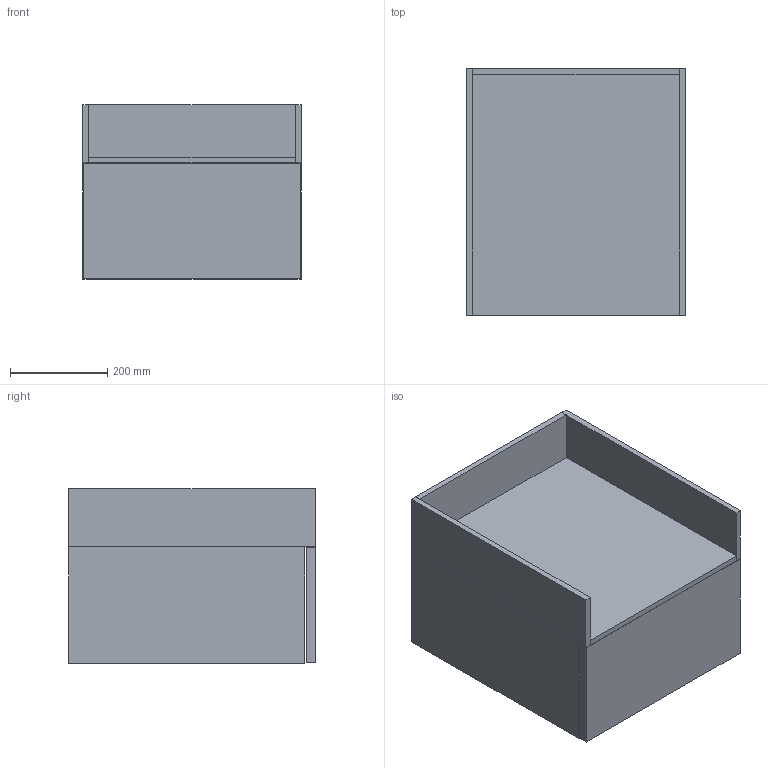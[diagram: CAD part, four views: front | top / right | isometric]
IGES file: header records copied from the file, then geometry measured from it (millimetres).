
Start section: Data from Parasolid IGES Translator 19.0.9, Copyright(c) 2006 Siemens PL M Software. All Rights Reserved.
Global section: file name: noorth-SI-H 36 D 51 W 45_8374.igs; native system: By Siemens PLM Incorporated; preprocessor: XPlus GENERIC/IGES 19.0.9; author: Noname; organization: Noname; date: 20200601.095951; units: metre
Bounding box: 450.01 x 508 x 360 mm (x, y, z)
Volume: 17121262.8 mm3; surface area: 2634491.2 mm2
Topology: 10 solids, 10 shells, 60 faces, 120 edges, 80 vertices
Faces by surface type: plane 60
